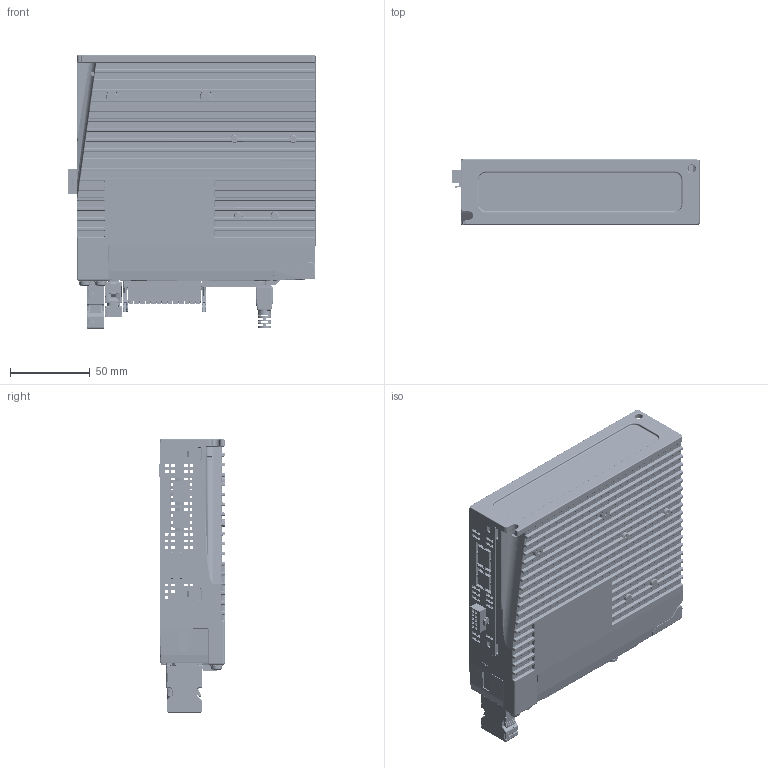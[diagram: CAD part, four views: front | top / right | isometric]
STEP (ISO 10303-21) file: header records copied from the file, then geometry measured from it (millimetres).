
FILE_DESCRIPTION((''),'2;1');
FILE_NAME('M3AC-ECX_200W_ASM','2025-03-20T13:39:22',('ms27526'),(''),'CREO PARAMETRIC BY PTC INC, 2018100','CREO PARAMETRIC BY PTC INC, 2018100','');
FILE_SCHEMA(('CONFIG_CONTROL_DESIGN'));
Products named in the file (44): 3698201101552_A1; M2E554451019M2E; M2ESVAC4M2E00; M3AC-ECX_200W_1_ASM; 4219122000971_B1; 3698201102238200W000; 2256000; 15EDGKNHG-3_5-26P-1Y-00AH; USB_; 600; BOARD; 514697808; J1_ASM; 514708608; J3_ASM; PCB_ASM; 4713101003258-A3_0313_ASM; BOARD_1; 6361-08FZXXDXMRX_1; J9_ASM_1_ASM; 5938414592_1; J8_ASM_1_ASM; 5938414976_1; J6_ASM_1_ASM; SHIELDING_2; INSULATOR_1; INSULATOR_2_1; 7499021125_ASM_1_ASM; J10_ASM_1_ASM; BOHRLOCH_1_4_1_1_1_1; BOHRLOCH_4_1_1_1_1; DMC-1_5-13-G1-3_5-LR-THR_GEH_1; PXC_1787124_01_DMC-1-5-13-G1F-3_ASM; J1_ASM_1_ASM; MINI-5PIN90_1_0001_1; 4718405010429_ASM_1_ASM; J4_ASM_1_ASM; PCB_ASM_1_ASM; 4713101005238-A0-241227_ASM_1_ASM; 200WEC_ASM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
Assembly tree (70 placements, depth 7):
  M3AC-ECX_200W_ASM
    M3AC-ECX_200W_1_ASM
      3698201101552_A1  x2
      M2E554451019M2E
      M2ESVAC4M2E00
    4219122000971_B1
    3698201102238200W000
    2256000
    15EDGKNHG-3_5-26P-1Y-00AH
    USB_
    600
    4713101003258-A3_0313_ASM
      PCB_ASM
        BOARD
        J1_ASM
          514697808
        J3_ASM
          514708608
    200WEC_ASM
      4713101005238-A0-241227_ASM_1_ASM
        PCB_ASM_1_ASM
          BOARD_1
          J9_ASM_1_ASM
            6361-08FZXXDXMRX_1
          J8_ASM_1_ASM
            5938414592_1
          J6_ASM_1_ASM
            5938414976_1
          J10_ASM_1_ASM
            7499021125_ASM_1_ASM
              SHIELDING_2
              INSULATOR_1
              INSULATOR_2_1  x2
          J1_ASM_1_ASM
            PXC_1787124_01_DMC-1-5-13-G1F-3_ASM
              BOHRLOCH_1_4_1_1_1_1  x13
              BOHRLOCH_4_1_1_1_1  x13
              DMC-1_5-13-G1-3_5-LR-THR_GEH_1
          J4_ASM_1_ASM
            4718405010429_ASM_1_ASM
              MINI-5PIN90_1_0001_1
    STO
    0001  x2
    0002
Bounding box: 155.41 x 41.2 x 171.63 mm (x, y, z)
Volume: 257754.9 mm3; surface area: 273377.1 mm2
Topology: 46 solids, 150 shells, 22074 faces, 60696 edges, 38624 vertices
Faces by surface type: plane 13047, cylinder 5934, cone 1169, bspline 1034, torus 488, sphere 275, extrusion 127
Entity records: 770381 total; most frequent: CARTESIAN_POINT 221385, ORIENTED_EDGE 117695, DIRECTION 107793, EDGE_CURVE 59617, VECTOR 41761, LINE 41634, VERTEX_POINT 38222, AXIS2_PLACEMENT_3D 33016
